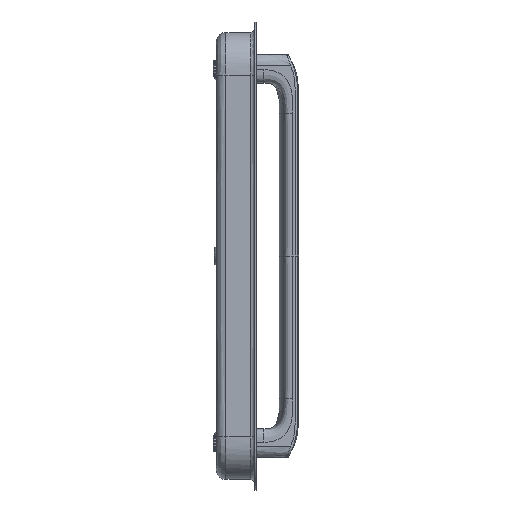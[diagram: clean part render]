
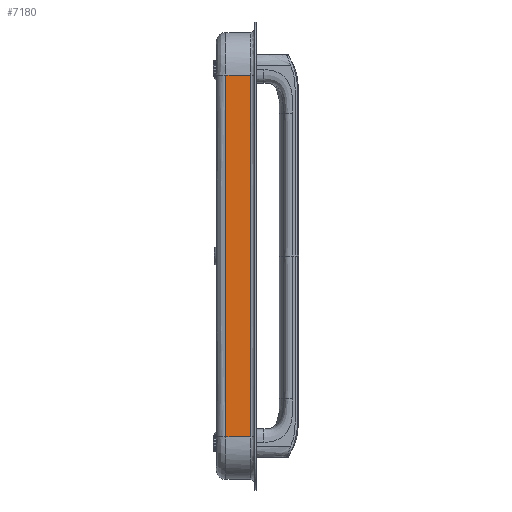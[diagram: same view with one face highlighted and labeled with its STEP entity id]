
A CAD part, left-side view. The second image highlights one B-rep face of the part: STEP entity #7180.
In plain terms, the highlighted free-form (B-spline) face has degree [2, 1] with [3, 2] control points.
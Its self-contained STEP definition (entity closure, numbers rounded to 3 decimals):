
#163=B_SPLINE_SURFACE_WITH_KNOTS('',2,1,((#20667,#20668),(#20669,#20670),
(#20671,#20672)),.UNSPECIFIED.,.F.,.F.,.F.,(3,3),(2,2),(-1.,0.),(0.,2.88),
 .UNSPECIFIED.);
#474=B_SPLINE_CURVE_WITH_KNOTS('',3,(#19271,#19272,#19273,#19274),
 .UNSPECIFIED.,.F.,.F.,(4,4),(0.,18.943),.UNSPECIFIED.);
#498=B_SPLINE_CURVE_WITH_KNOTS('',2,(#20675,#20676,#20677),
 .UNSPECIFIED.,.F.,.F.,(3,3),(0.,18.943),.UNSPECIFIED.);
#1072=LINE('',#20678,#1545);
#1073=LINE('',#20679,#1546);
#1545=VECTOR('',#8622,10.);
#1546=VECTOR('',#8623,10.);
#2010=FACE_OUTER_BOUND('',#2431,.T.);
#2431=EDGE_LOOP('',(#5896,#5897,#5898,#5899));
#3157=VERTEX_POINT('',#19157);
#3158=VERTEX_POINT('',#19270);
#3176=VERTEX_POINT('',#20673);
#3177=VERTEX_POINT('',#20674);
#4070=EDGE_CURVE('',#3158,#3157,#474,.T.);
#4111=EDGE_CURVE('',#3176,#3177,#498,.T.);
#4112=EDGE_CURVE('',#3177,#3158,#1072,.T.);
#4113=EDGE_CURVE('',#3157,#3176,#1073,.T.);
#5896=ORIENTED_EDGE('',*,*,#4111,.T.);
#5897=ORIENTED_EDGE('',*,*,#4112,.T.);
#5898=ORIENTED_EDGE('',*,*,#4070,.T.);
#5899=ORIENTED_EDGE('',*,*,#4113,.T.);
#7180=ADVANCED_FACE('',(#2010),#163,.T.);
#8622=DIRECTION('',(0.,-1.,0.));
#8623=DIRECTION('',(0.,1.,0.));
#19157=CARTESIAN_POINT('',(-118.721,-7.985,110.036));
#19270=CARTESIAN_POINT('',(-118.721,-7.985,-79.395));
#19271=CARTESIAN_POINT('Ctrl Pts',(-118.721,-7.985,
-79.395));
#19272=CARTESIAN_POINT('Ctrl Pts',(-118.721,-7.985,-16.252));
#19273=CARTESIAN_POINT('Ctrl Pts',(-118.721,-7.985,
46.892));
#19274=CARTESIAN_POINT('Ctrl Pts',(-118.721,-7.985,
110.036));
#20667=CARTESIAN_POINT('Ctrl Pts',(-118.721,-9.985,
-79.395));
#20668=CARTESIAN_POINT('Ctrl Pts',(-118.721,18.815,-79.395));
#20669=CARTESIAN_POINT('Ctrl Pts',(-118.721,-9.985,
15.32));
#20670=CARTESIAN_POINT('Ctrl Pts',(-118.721,18.815,15.32));
#20671=CARTESIAN_POINT('Ctrl Pts',(-118.721,-9.985,
110.036));
#20672=CARTESIAN_POINT('Ctrl Pts',(-118.721,18.815,110.036));
#20673=CARTESIAN_POINT('',(-118.721,5.015,110.036));
#20674=CARTESIAN_POINT('',(-118.721,5.015,-79.395));
#20675=CARTESIAN_POINT('Ctrl Pts',(-118.721,5.015,110.036));
#20676=CARTESIAN_POINT('Ctrl Pts',(-118.721,5.015,15.32));
#20677=CARTESIAN_POINT('Ctrl Pts',(-118.721,5.015,-79.395));
#20678=CARTESIAN_POINT('',(-118.721,5.015,-79.395));
#20679=CARTESIAN_POINT('',(-118.721,-7.985,110.036));
